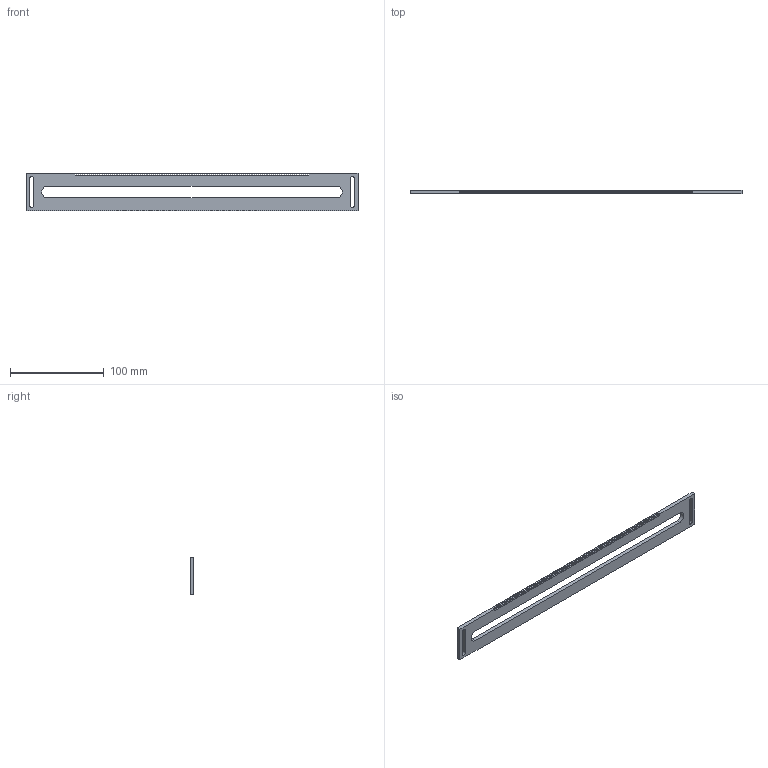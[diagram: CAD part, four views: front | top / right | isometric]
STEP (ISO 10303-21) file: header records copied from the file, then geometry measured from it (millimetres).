
FILE_DESCRIPTION(/* description */ ('Unknown'),/* implementation_level */ '2;1');
FILE_NAME(/* name */ 'Sensor_Zahnstange_125',/* time_stamp */ '2023-05-23T09:11:53+02:00',/* author */ ('Unknown'),/* organization */ ('Unknown'),/* preprocessor_version */ 'ST-DEVELOPER v16.7',/* originating_system */ 'Solid Edge',/* authorisation */ 'Unknown');
FILE_SCHEMA (('AUTOMOTIVE_DESIGN {1 0 10303 214 3 1 1}'));
Length unit declared in the file: millimetre
Products named in the file (1): Sensor_Zahnstange
Bounding box: 354 x 4 x 40 mm (x, y, z)
Volume: 38577.9 mm3; surface area: 27639.1 mm2
Topology: 1 solids, 1 shells, 518 faces, 1548 edges, 1032 vertices
Faces by surface type: plane 512, cylinder 6
Entity records: 17106 total; most frequent: CARTESIAN_POINT 3099, ORIENTED_EDGE 3096, DIRECTION 2598, EDGE_CURVE 1548, LINE 1536, VECTOR 1536, VERTEX_POINT 1032, AXIS2_PLACEMENT_3D 531
